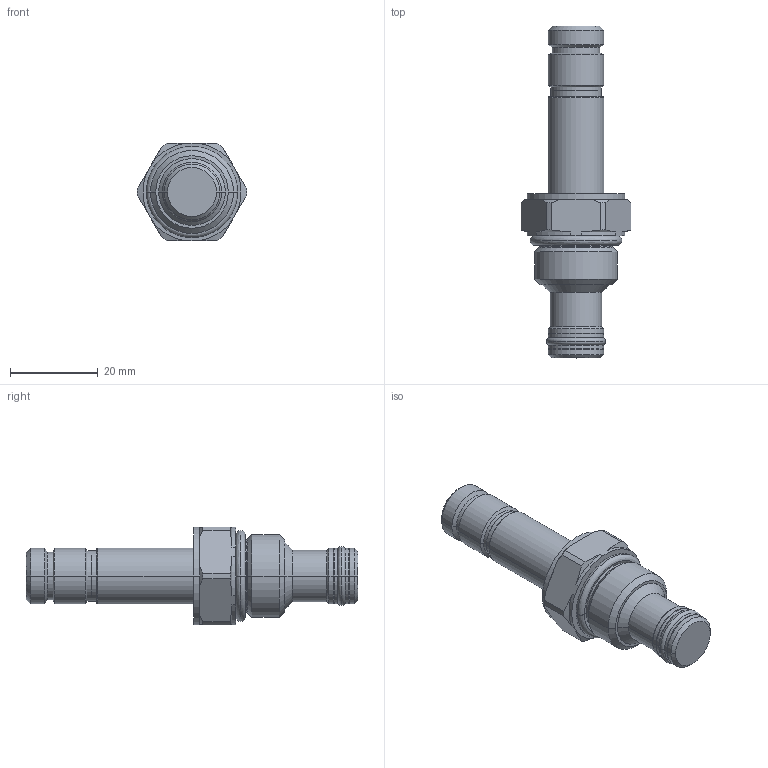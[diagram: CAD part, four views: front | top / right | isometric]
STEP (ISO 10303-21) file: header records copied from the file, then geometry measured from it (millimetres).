
FILE_DESCRIPTION((''),'2;1');
FILE_NAME('5004005_SW0001','2009-02-24T',('JCS'),(''),'PRO/ENGINEER BY PARAMETRIC TECHNOLOGY CORPORATION, 2008010','PRO/ENGINEER BY PARAMETRIC TECHNOLOGY CORPORATION, 2008010','');
FILE_SCHEMA(('CONFIG_CONTROL_DESIGN'));
Length unit declared in the file: inch
Products named in the file (1): 5004005_SW0001
Bounding box: 24.94 x 75.51 x 22.23 mm (x, y, z)
Volume: 13692.7 mm3; surface area: 5143.4 mm2
Topology: 1 solids, 1 shells, 128 faces, 282 edges, 166 vertices
Faces by surface type: cylinder 46, cone 40, plane 18, revolution 16, torus 8
Entity records: 3854 total; most frequent: CARTESIAN_POINT 968, DIRECTION 626, ORIENTED_EDGE 564, EDGE_CURVE 282, AXIS2_PLACEMENT_3D 256, VERTEX_POINT 166, CIRCLE 144, EDGE_LOOP 138
